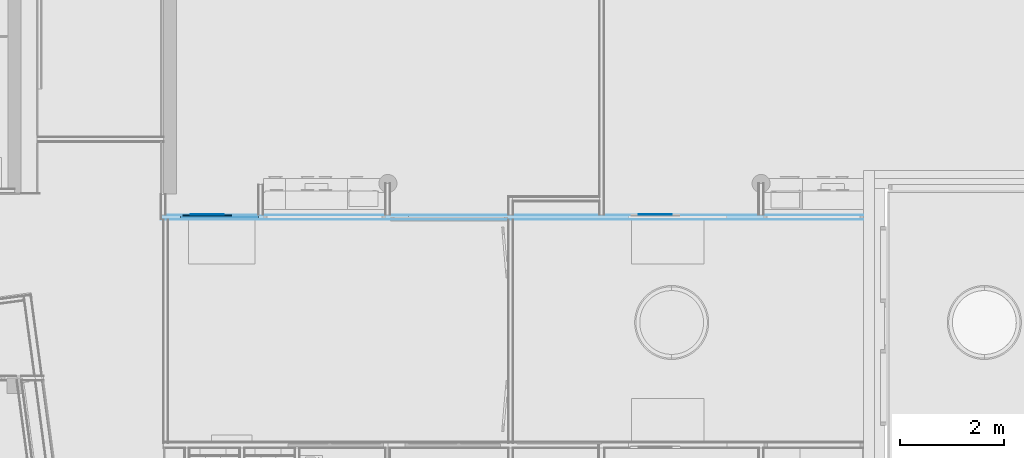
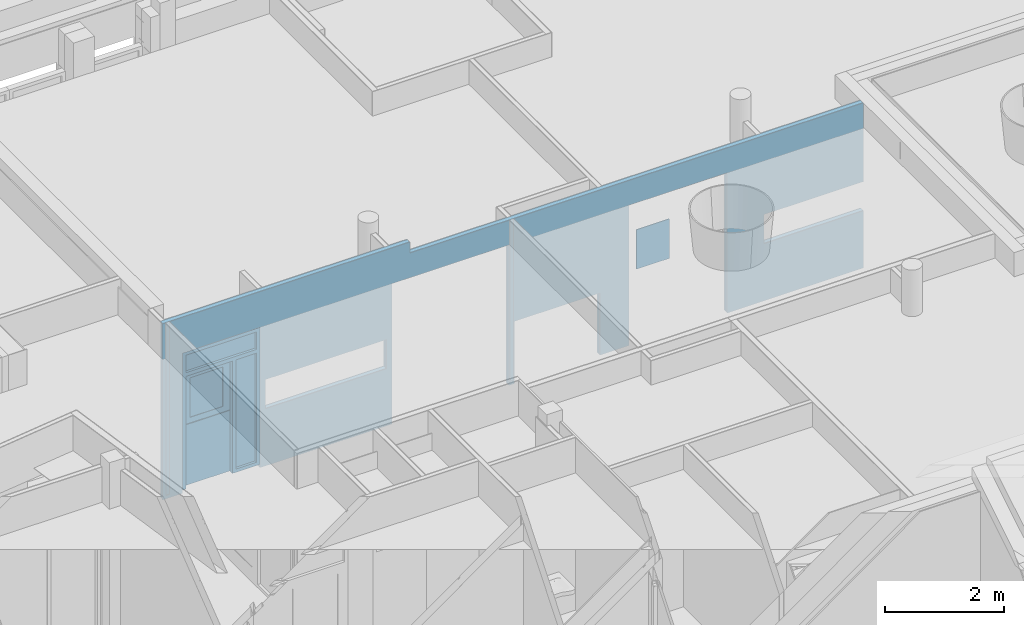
# One storey, part 76 of 167: 4 building element parts, 6 openings, 3 elements without a shape of their own, plus 3 elements that do not belong to this part.
"""IFC2X3 building model written with IfcOpenShell, lengths in millimetres."""

from ifc_helpers import new_model, entity, si_unit, converted_unit, derived_unit, money_unit, direction, frame, origin_with_axes, place, context, subcontext, project, spatial, open_shell, faceted_brep, surface_model, material, type_object, element, fill, aggregate, save


model = new_model("IFC2X3")

# Units and contexts
model_context = context("Model", 3, precision=0.01, world=origin_with_axes(), true_north=direction((0.0, 1.0)))
plan_context = context("Plan", 3, precision=0.01, world=origin_with_axes(), true_north=direction((0.0, 1.0)))
body_context = subcontext(model_context, "Body", "Model", "MODEL_VIEW")
ifc_project = project(units=[si_unit("LENGTHUNIT", "METRE", prefix="MILLI"), si_unit("AREAUNIT", "SQUARE_METRE"), si_unit("VOLUMEUNIT", "CUBIC_METRE"), converted_unit("PLANEANGLEUNIT", "DEGREE", entity("IfcPlaneAngleMeasure", 0.0174532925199), si_unit("PLANEANGLEUNIT", "RADIAN"), dimensions=[0, 0, 0, 0, 0, 0, 0]), si_unit("SOLIDANGLEUNIT", "STERADIAN"), money_unit("EUR"), converted_unit("TIMEUNIT", "Year", entity("IfcTimeMeasure", 31556926.0), si_unit("TIMEUNIT", "SECOND"), dimensions=[0, 0, 1, 0, 0, 0, 0]), si_unit("MASSUNIT", "GRAM", prefix="KILO"), si_unit("THERMODYNAMICTEMPERATUREUNIT", "DEGREE_CELSIUS"), si_unit("LUMINOUSINTENSITYUNIT", "LUMEN"), si_unit("ENERGYUNIT", "JOULE", prefix="MEGA"), derived_unit("THERMALCONDUCTANCEUNIT", [(si_unit("POWERUNIT", "WATT"), 1), (si_unit("LENGTHUNIT", "METRE"), -1), (si_unit("THERMODYNAMICTEMPERATUREUNIT", "KELVIN"), -1)]), derived_unit("SPECIFICHEATCAPACITYUNIT", [(si_unit("ENERGYUNIT", "JOULE"), 1), (si_unit("MASSUNIT", "GRAM", prefix="KILO"), -1), (si_unit("THERMODYNAMICTEMPERATUREUNIT", "KELVIN"), -1)]), derived_unit("MASSDENSITYUNIT", [(si_unit("MASSUNIT", "GRAM", prefix="KILO"), 1), (si_unit("VOLUMEUNIT", "CUBIC_METRE"), -1)])], contexts=[model_context, plan_context])

# Site, building, storey
site_placement = place(None, origin_with_axes())
site = spatial("IfcSite", under=ifc_project, at=site_placement, Name="Site", CompositionType="ELEMENT")
building_placement = place(site_placement, origin_with_axes())
building = spatial("IfcBuilding", under=site, at=building_placement, Name="Naam gebouw", CompositionType="ELEMENT")
storey_placement = place(building_placement, origin_with_axes())
storey = spatial("IfcBuildingStorey", under=building, at=storey_placement, Name="Begane grond", CompositionType="ELEMENT", Elevation=0.0)

# Wall, openings, building element parts, doors
wall_type = type_object("IfcWallType", Name="_TenW_22_Metalstud 100 enkel gipsvezelplaat 100", PredefinedType="NOTDEFINED")
wall_placement = place(storey_placement, frame((38189.0, 41700.0, -100.0), z_axis=(0.0, 0.0, 1.0), x_axis=(-1.0, 0.0, 0.0)))
wall = element("IfcWall", 1, at=wall_placement, inside=storey, type_object=wall_type, Name="22_Wand_Wand-x")
opening_1_placement = place(wall_placement, frame((1176.5, 0.0, 1200.0), z_axis=(0.0, 0.0, 1.0), x_axis=(1.0, 0.0, 0.0)))
element("IfcOpeningElement", 2, at=opening_1_placement, cuts=wall, Name="31_Raam_Hi-49", context=body_context, shape_type="Brep", body=[
    faceted_brep([(962.5, -100.0, 595.0), (962.5, -100.0, 0.0), (962.5, 200.0, 0.0), (962.5, 200.0, 595.0), (-962.5, -100.0, 595.0), (-962.5, -100.0, 0.0), (-962.5, 200.0, 0.0), (-962.5, 200.0, 595.0)], [[[0, 1, 2, 3]], [[0, 4, 5, 1]], [[1, 5, 6, 2]], [[3, 2, 6, 7]], [[4, 0, 3, 7]], [[5, 4, 7, 6]]]),
])
opening_2_placement = place(wall_placement, frame((10611.4999999, 0.0, 1200.0), z_axis=(0.0, 0.0, 1.0), x_axis=(1.0, 0.0, 0.0)))
element("IfcOpeningElement", 3, at=opening_2_placement, cuts=wall, Name="31_Raam_Hi-41", context=body_context, shape_type="Brep", body=[
    faceted_brep([(-1172.49999987, 200.0, 596.07308756), (-1172.49999987, 200.0, 0.0), (-1172.49999987, -100.0, 0.0), (-1172.49999987, -100.0, 596.07308756), (1172.49999987, 200.0, 596.07308756), (1172.49999987, 200.0, 0.0), (1172.49999987, -100.0, 0.0), (1172.49999987, -100.0, 596.07308756)], [[[0, 1, 2, 3]], [[0, 4, 5, 1]], [[1, 5, 6, 2]], [[3, 2, 6, 7]], [[4, 0, 3, 7]], [[5, 4, 7, 6]]]),
])
opening_3_placement = place(wall_placement, frame((8203.10155757, 0.0, 100.0), z_axis=(0.0, 0.0, 1.0), x_axis=(1.0, 0.0, 0.0)))
element("IfcOpeningElement", 4, at=opening_3_placement, cuts=wall, Name="31_Raam_Hi-35", context=body_context, shape_type="Brep", body=[
    faceted_brep([(-1135.89844243, 225.0, 2800.0), (-1135.89844243, 225.0, 0.0), (-1135.89844243, -100.0, 0.0), (-1135.89844243, -100.0, 2800.0), (1135.89844243, 225.0, 2800.0), (1135.89844243, 225.0, 0.0), (1135.89844243, -100.0, 0.0), (1135.89844243, -100.0, 2800.0)], [[[0, 1, 2, 3]], [[0, 4, 5, 1]], [[1, 5, 6, 2]], [[3, 2, 6, 7]], [[4, 0, 3, 7]], [[5, 4, 7, 6]]]),
])
opening_4_placement = place(wall_placement, frame((6140.46082434, 0.0, 30.0), z_axis=(0.0, 0.0, 1.0), x_axis=(1.0, 0.0, 0.0)))
element("IfcOpeningElement", 5, at=opening_4_placement, cuts=wall, Name="31_Raam_Merk-x", context=body_context, shape_type="Brep", body=[
    faceted_brep([(-826.742290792, -100.0, 0.0), (-826.742290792, -100.0, 1270.0), (-826.742290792, 200.0, 1270.0), (-826.742290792, 200.0, 0.0), (826.742290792, -100.0, 0.0), (826.742290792, -100.0, 1270.0), (826.742290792, 200.0, 1270.0), (826.742290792, 200.0, 0.0)], [[[0, 1, 2, 3]], [[0, 4, 5, 1]], [[1, 5, 6, 2]], [[3, 2, 6, 7]], [[4, 0, 3, 7]], [[5, 4, 7, 6]]]),
])
opening_5_placement = place(wall_placement, frame((3798.99993764, 0.0, 100.0), z_axis=(0.0, 0.0, 1.0), x_axis=(1.0, 0.0, 0.0)))
opening_5 = element("IfcOpeningElement", 6, at=opening_5_placement, cuts=wall, Name="32_Deur_Hi-43s", context=body_context, shape_type="Brep", body=[
    faceted_brep([(950.0, 200.0, 0.0), (950.0, 200.0, 2800.0), (950.0, -100.0, 2800.0), (950.0, -100.0, 0.0), (-950.0, 200.0, 0.0), (-950.0, 200.0, 2800.0), (-950.0, -100.0, 2800.0), (-950.0, -100.0, 0.0)], [[[0, 1, 2, 3]], [[0, 4, 5, 1]], [[1, 5, 6, 2]], [[3, 2, 6, 7]], [[4, 0, 3, 7]], [[5, 4, 7, 6]]]),
])
opening_6_placement = place(wall_placement, frame((12639.0, 0.0, 100.0), z_axis=(0.0, 0.0, 1.0), x_axis=(1.0, 0.0, 0.0)))
opening_6 = element("IfcOpeningElement", 7, at=opening_6_placement, cuts=wall, Name="32_Deur_Hi-16", context=body_context, shape_type="Brep", body=[
    faceted_brep([(750.0, 200.0, 0.0), (750.0, 200.0, 2800.0), (750.0, -100.0, 2800.0), (750.0, -100.0, 0.0), (-750.0, 200.0, 0.0), (-750.0, 200.0, 2800.0), (-750.0, -100.0, 2800.0), (-750.0, -100.0, 0.0)], [[[0, 1, 2, 3]], [[0, 4, 5, 1]], [[1, 5, 6, 2]], [[3, 2, 6, 7]], [[4, 0, 3, 7]], [[5, 4, 7, 6]]]),
])
ifc_material_1 = material(Name="Gipsplaat watervast")
building_element_part_1_placement = place(wall_placement, origin_with_axes())
building_element_part_1 = element("IfcBuildingElementPart", 8, at=building_element_part_1_placement, material=ifc_material_1, Name="Gipsplaat watervast", context=body_context, shape_type="Brep", body=[
    faceted_brep([(13389.0, 37.5, 2900.0), (13389.0, 37.5, 100.0), (13389.0, 37.5, 30.0), (13773.9999908, 37.5, 30.0), (13773.9999908, 37.5, 3629.99999752), (13711.4999908, 37.5, 3630.0), (13711.4999908, 37.5, 100.0), (13636.4999908, 37.5, 100.0), (13636.4999908, 37.5, 3630.0), (8989.0, 37.5, 3630.0), (8989.0, 37.5, 3405.0), (7054.70311513, 37.5, 3405.0), (7054.70311513, 37.5, 100.0), (6979.70311513, 37.5, 100.0), (6979.70311513, 37.5, 3405.0), (214.0, 37.5, 3405.0), (214.0, 37.5, 1795.0), (2139.0, 37.5, 1795.0), (2139.0, 37.5, 1200.0), (214.0, 37.5, 1200.0), (214.0, 37.5, 30.0), (2848.99993764, 37.5, 30.0), (2848.99993764, 37.5, 100.0), (2848.99993764, 37.5, 2900.0), (4748.99993764, 37.5, 2900.0), (4748.99993764, 37.5, 100.0), (4748.99993764, 37.5, 30.0), (5313.71853355, 37.5, 30.0), (5313.71853355, 37.5, 100.0), (5313.71853355, 37.5, 1300.0), (6967.20311513, 37.5, 1300.0), (6967.20311513, 37.5, 100.0), (6967.20311513, 37.5, 30.0), (7067.20311513, 37.5, 30.0), (7067.20311513, 37.5, 100.0), (7067.20311513, 37.5, 2900.0), (9339.0, 37.5, 2900.0), (9339.0, 37.5, 100.0), (9339.0, 37.5, 30.0), (11889.0, 37.5, 30.0), (11889.0, 37.5, 100.0), (11889.0, 37.5, 2900.0), (11783.9999997, 37.5, 1200.0), (9439.0, 37.5, 1200.0), (9439.0, 37.5, 1796.07308756), (11783.9999997, 37.5, 1796.07308756), (13389.0, 50.0, 2900.0), (13389.0, 50.0, 100.0), (13389.0, 50.0, 30.0), (13773.9999908, 50.0, 30.0), (13773.9999908, 50.0, 3629.99999752), (13711.4999908, 50.0, 3630.0), (13711.4999908, 50.0, 100.0), (13636.4999908, 50.0, 100.0), (13636.4999908, 50.0, 3630.0), (8989.0, 50.0, 3630.0), (8989.0, 50.0, 3405.0), (7054.70311513, 50.0, 3405.0), (7054.70311513, 50.0, 100.0), (6979.70311513, 50.0, 100.0), (6979.70311513, 50.0, 3405.0), (214.0, 50.0, 3405.0), (214.0, 50.0, 1795.0), (2139.0, 50.0, 1795.0), (2139.0, 50.0, 1200.0), (214.0, 50.0, 1200.0), (214.0, 50.0, 30.0), (2848.99993764, 50.0, 30.0), (2848.99993764, 50.0, 100.0), (2848.99993764, 50.0, 2900.0), (4748.99993764, 50.0, 2900.0), (4748.99993764, 50.0, 100.0), (4748.99993764, 50.0, 30.0), (5313.71853355, 50.0, 30.0), (5313.71853355, 50.0, 100.0), (5313.71853355, 50.0, 1300.0), (6967.20311513, 50.0, 1300.0), (6967.20311513, 50.0, 100.0), (6967.20311513, 50.0, 30.0), (7067.20311513, 50.0, 30.0), (7067.20311513, 50.0, 100.0), (7067.20311513, 50.0, 2900.0), (9339.0, 50.0, 2900.0), (9339.0, 50.0, 100.0), (9339.0, 50.0, 30.0), (11889.0, 50.0, 30.0), (11889.0, 50.0, 100.0), (11889.0, 50.0, 2900.0), (11783.9999997, 50.0, 1200.0), (9439.0, 50.0, 1200.0), (9439.0, 50.0, 1796.07308756), (11783.9999997, 50.0, 1796.07308756)], [[[0, 1, 2, 3, 4, 5, 6, 7, 8, 9, 10, 11, 12, 13, 14, 15, 16, 17, 18, 19, 20, 21, 22, 23, 24, 25, 26, 27, 28, 29, 30, 31, 32, 33, 34, 35, 36, 37, 38, 39, 40, 41], [42, 43, 44, 45]], [[1, 0, 46, 47]], [[1, 47, 48, 2]], [[49, 3, 2, 48]], [[50, 4, 3, 49]], [[5, 4, 50, 51]], [[5, 51, 52, 6]], [[6, 52, 53, 7]], [[8, 7, 53, 54]], [[8, 54, 55, 9]], [[9, 55, 56, 10]], [[10, 56, 57, 11]], [[58, 12, 11, 57]], [[12, 58, 59, 13]], [[13, 59, 60, 14]], [[14, 60, 61, 15]], [[16, 15, 61, 62]], [[16, 62, 63, 17]], [[17, 63, 64, 18]], [[19, 18, 64, 65]], [[65, 66, 20, 19]], [[20, 66, 67, 21]], [[22, 21, 67, 68]], [[22, 68, 69, 23]], [[23, 69, 70, 24]], [[24, 70, 71, 25]], [[71, 72, 26, 25]], [[26, 72, 73, 27]], [[27, 73, 74, 28]], [[74, 75, 29, 28]], [[75, 76, 30, 29]], [[76, 77, 31, 30]], [[78, 32, 31, 77]], [[32, 78, 79, 33]], [[79, 80, 34, 33]], [[81, 35, 34, 80]], [[82, 36, 35, 81]], [[83, 37, 36, 82]], [[38, 37, 83, 84]], [[38, 84, 85, 39]], [[86, 40, 39, 85]], [[41, 40, 86, 87]], [[0, 41, 87, 46]], [[43, 42, 88, 89]], [[44, 43, 89, 90]], [[45, 44, 90, 91]], [[42, 45, 91, 88]], [[87, 86, 85, 84, 83, 82, 81, 80, 79, 78, 77, 76, 75, 74, 73, 72, 71, 70, 69, 68, 67, 66, 65, 64, 63, 62, 61, 60, 59, 58, 57, 56, 55, 54, 53, 52, 51, 50, 49, 48, 47, 46], [88, 91, 90, 89]]]),
])
ifc_material_2 = material(Name="Isolatie - Steenwol zacht")
building_element_part_2_placement = place(wall_placement, origin_with_axes())
building_element_part_2 = element("IfcBuildingElementPart", 9, at=building_element_part_2_placement, material=ifc_material_2, Name="Isolatie - Steenwol zacht", context=body_context, shape_type="Brep", body=[
    faceted_brep([(13389.0, -37.5, 2900.0), (13389.0, -37.5, 100.0), (13389.0, -37.5, 30.0), (13761.4999908, -37.5, 30.0), (13761.4999908, -37.5, 3629.99999752), (8989.0, -37.5, 3629.99999752), (8989.0, -37.5, 3405.0), (214.0, -37.5, 3405.0), (214.0, -37.5, 1795.0), (2139.0, -37.5, 1795.0), (2139.0, -37.5, 1200.0), (214.0, -37.5, 1200.0), (214.0, -37.5, 30.0), (2848.99993764, -37.5, 30.0), (2848.99993764, -37.5, 100.0), (2848.99993764, -37.5, 2900.0), (4748.99993764, -37.5, 2900.0), (4748.99993764, -37.5, 100.0), (4748.99993764, -37.5, 30.0), (5313.71853355, -37.5, 30.0), (5313.71853355, -37.5, 100.0), (5313.71853355, -37.5, 1300.0), (6967.20311513, -37.5, 1300.0), (6967.20311513, -37.5, 100.0), (6967.20311513, -37.5, 30.0), (7067.20311513, -37.5, 30.0), (7067.20311513, -37.5, 100.0), (7067.20311513, -37.5, 2900.0), (9339.0, -37.5, 2900.0), (9339.0, -37.5, 100.0), (9339.0, -37.5, 30.0), (11889.0, -37.5, 30.0), (11889.0, -37.5, 100.0), (11889.0, -37.5, 2900.0), (11783.9999997, -37.5, 1200.0), (9439.0, -37.5, 1200.0), (9439.0, -37.5, 1796.07308756), (11783.9999997, -37.5, 1796.07308756), (13389.0, 37.5, 2900.0), (13389.0, 37.5, 100.0), (13389.0, 37.5, 30.0), (13761.4999908, 37.5, 30.0), (13761.4999908, 37.5, 3629.99999752), (8989.0, 37.5, 3629.99999752), (8989.0, 37.5, 3405.0), (214.0, 37.5, 3405.0), (214.0, 37.5, 1795.0), (2139.0, 37.5, 1795.0), (2139.0, 37.5, 1200.0), (214.0, 37.5, 1200.0), (214.0, 37.5, 30.0), (2848.99993764, 37.5, 30.0), (2848.99993764, 37.5, 100.0), (2848.99993764, 37.5, 2900.0), (4748.99993764, 37.5, 2900.0), (4748.99993764, 37.5, 100.0), (4748.99993764, 37.5, 30.0), (5313.71853355, 37.5, 30.0), (5313.71853355, 37.5, 100.0), (5313.71853355, 37.5, 1300.0), (6967.20311513, 37.5, 1300.0), (6967.20311513, 37.5, 100.0), (6967.20311513, 37.5, 30.0), (7067.20311513, 37.5, 30.0), (7067.20311513, 37.5, 100.0), (7067.20311513, 37.5, 2900.0), (9339.0, 37.5, 2900.0), (9339.0, 37.5, 100.0), (9339.0, 37.5, 30.0), (11889.0, 37.5, 30.0), (11889.0, 37.5, 100.0), (11889.0, 37.5, 2900.0), (11783.9999997, 37.5, 1200.0), (9439.0, 37.5, 1200.0), (9439.0, 37.5, 1796.07308756), (11783.9999997, 37.5, 1796.07308756)], [[[0, 1, 2, 3, 4, 5, 6, 7, 8, 9, 10, 11, 12, 13, 14, 15, 16, 17, 18, 19, 20, 21, 22, 23, 24, 25, 26, 27, 28, 29, 30, 31, 32, 33], [34, 35, 36, 37]], [[1, 0, 38, 39]], [[1, 39, 40, 2]], [[41, 3, 2, 40]], [[42, 4, 3, 41]], [[4, 42, 43, 5]], [[5, 43, 44, 6]], [[6, 44, 45, 7]], [[8, 7, 45, 46]], [[8, 46, 47, 9]], [[9, 47, 48, 10]], [[11, 10, 48, 49]], [[49, 50, 12, 11]], [[12, 50, 51, 13]], [[14, 13, 51, 52]], [[14, 52, 53, 15]], [[15, 53, 54, 16]], [[16, 54, 55, 17]], [[55, 56, 18, 17]], [[18, 56, 57, 19]], [[19, 57, 58, 20]], [[58, 59, 21, 20]], [[59, 60, 22, 21]], [[60, 61, 23, 22]], [[62, 24, 23, 61]], [[24, 62, 63, 25]], [[63, 64, 26, 25]], [[65, 27, 26, 64]], [[66, 28, 27, 65]], [[67, 29, 28, 66]], [[30, 29, 67, 68]], [[30, 68, 69, 31]], [[70, 32, 31, 69]], [[33, 32, 70, 71]], [[0, 33, 71, 38]], [[35, 34, 72, 73]], [[36, 35, 73, 74]], [[37, 36, 74, 75]], [[34, 37, 75, 72]], [[71, 70, 69, 68, 67, 66, 65, 64, 63, 62, 61, 60, 59, 58, 57, 56, 55, 54, 53, 52, 51, 50, 49, 48, 47, 46, 45, 44, 43, 42, 41, 40, 39, 38], [72, 75, 74, 73]]]),
])
building_element_part_3_placement = place(wall_placement, origin_with_axes())
building_element_part_3 = element("IfcBuildingElementPart", 10, at=building_element_part_3_placement, material=ifc_material_1, Name="Gipsplaat watervast", context=body_context, shape_type="Brep", body=[
    faceted_brep([(9339.0, -50.0, 2900.0), (9339.0, -50.0, 100.0), (9339.0, -50.0, 30.0), (9351.5, -50.0, 30.0), (9351.5, -50.0, 3629.99999752), (8989.0, -50.0, 3629.9999979), (8989.0, -50.0, 3405.0), (7054.70311513, -50.0, 3405.0), (7054.70311513, -50.0, 30.0), (7067.20311513, -50.0, 30.0), (7067.20311513, -50.0, 100.0), (7067.20311513, -50.0, 2900.0), (9339.0, -37.5, 2900.0), (9339.0, -37.5, 100.0), (9339.0, -37.5, 30.0), (9351.5, -37.5, 30.0), (9351.5, -37.5, 3629.99999752), (8989.0, -37.5, 3629.99999791), (8989.0, -37.5, 3405.0), (7054.70311513, -37.5, 3405.0), (7054.70311513, -37.5, 30.0), (7067.20311513, -37.5, 30.0), (7067.20311513, -37.5, 100.0), (7067.20311513, -37.5, 2900.0)], [[[0, 1, 2, 3, 4, 5, 6, 7, 8, 9, 10, 11]], [[1, 0, 12, 13]], [[1, 13, 14, 2]], [[14, 15, 3, 2]], [[15, 16, 4, 3]], [[5, 4, 16, 17]], [[6, 5, 17, 18]], [[7, 6, 18, 19]], [[19, 20, 8, 7]], [[9, 8, 20, 21]], [[22, 10, 9, 21]], [[11, 10, 22, 23]], [[0, 11, 23, 12]], [[23, 22, 21, 20, 19, 18, 17, 16, 15, 14, 13, 12]]]),
    faceted_brep([(6967.20311513, -50.0, 1300.0), (6967.20311513, -50.0, 100.0), (6967.20311513, -50.0, 30.0), (6979.70311513, -50.0, 30.0), (6979.70311513, -50.0, 3405.0), (5301.21853355, -50.0, 3405.0), (5301.21853355, -50.0, 30.0), (5313.71853355, -50.0, 30.0), (5313.71853355, -50.0, 100.0), (5313.71853355, -50.0, 1300.0), (6967.20311513, -37.5, 1300.0), (6967.20311513, -37.5, 100.0), (6967.20311513, -37.5, 30.0), (6979.70311513, -37.5, 30.0), (6979.70311513, -37.5, 3405.0), (5301.21853355, -37.5, 3405.0), (5301.21853355, -37.5, 30.0), (5313.71853355, -37.5, 30.0), (5313.71853355, -37.5, 100.0), (5313.71853355, -37.5, 1300.0)], [[[0, 1, 2, 3, 4, 5, 6, 7, 8, 9]], [[1, 0, 10, 11]], [[1, 11, 12, 2]], [[12, 13, 3, 2]], [[4, 3, 13, 14]], [[5, 4, 14, 15]], [[15, 16, 6, 5]], [[7, 6, 16, 17]], [[18, 8, 7, 17]], [[9, 8, 18, 19]], [[0, 9, 19, 10]], [[19, 18, 17, 16, 15, 14, 13, 12, 11, 10]]]),
    faceted_brep([(13389.0, -50.0, 2900.0), (13389.0, -50.0, 100.0), (13389.0, -50.0, 30.0), (13686.4999908, -50.0, 30.0), (13686.4999908, -50.0, 3629.99999752), (9426.5, -50.0, 3629.99999752), (9426.5, -50.0, 30.0), (11889.0, -50.0, 30.0), (11889.0, -50.0, 100.0), (11889.0, -50.0, 2900.0), (9439.0, -50.0, 1200.0), (9439.0, -50.0, 1796.07308756), (11783.9999997, -50.0, 1796.07308756), (11783.9999997, -50.0, 1200.0), (13389.0, -37.5, 2900.0), (13389.0, -37.5, 100.0), (13389.0, -37.5, 30.0), (13686.4999908, -37.5, 30.0), (13686.4999908, -37.5, 3629.99999752), (9426.5, -37.5, 3629.99999752), (9426.5, -37.5, 30.0), (11889.0, -37.5, 30.0), (11889.0, -37.5, 100.0), (11889.0, -37.5, 2900.0), (9439.0, -37.5, 1200.0), (9439.0, -37.5, 1796.07308756), (11783.9999997, -37.5, 1796.07308756), (11783.9999997, -37.5, 1200.0)], [[[0, 1, 2, 3, 4, 5, 6, 7, 8, 9], [10, 11, 12, 13]], [[1, 0, 14, 15]], [[1, 15, 16, 2]], [[17, 3, 2, 16]], [[18, 4, 3, 17]], [[19, 5, 4, 18]], [[5, 19, 20, 6]], [[6, 20, 21, 7]], [[22, 8, 7, 21]], [[9, 8, 22, 23]], [[0, 9, 23, 14]], [[10, 24, 25, 11]], [[11, 25, 26, 12]], [[12, 26, 27, 13]], [[13, 27, 24, 10]], [[23, 22, 21, 20, 19, 18, 17, 16, 15, 14], [26, 25, 24, 27]]]),
    faceted_brep([(214.0, -37.5, 1795.0), (214.0, -50.0, 1795.0), (214.0, -50.0, 3405.0), (214.0, -37.5, 3405.0), (2139.0, -50.0, 1795.0), (2139.0, -37.5, 1795.0), (2139.0, -50.0, 1200.0), (214.0, -50.0, 1200.0), (214.0, -50.0, 30.0), (2151.5, -50.0, 30.0), (2151.5, -50.0, 3405.0), (2151.5, -37.5, 3405.0), (2151.5, -37.5, 30.0), (214.0, -37.5, 30.0), (214.0, -37.5, 1200.0), (2139.0, -37.5, 1200.0)], [[[0, 1, 2, 3]], [[4, 1, 0, 5]], [[6, 7, 8, 9, 10, 2, 1, 4]], [[2, 10, 11, 3]], [[5, 0, 3, 11, 12, 13, 14, 15]], [[6, 4, 5, 15]], [[14, 7, 6, 15]], [[7, 14, 13, 8]], [[8, 13, 12, 9]], [[10, 9, 12, 11]]]),
    faceted_brep([(4748.99993764, -50.0, 2900.0), (4748.99993764, -50.0, 100.0), (4748.99993764, -50.0, 30.0), (5226.21853355, -50.0, 30.0), (5226.21853355, -50.0, 3405.0), (2226.5, -50.0, 3405.0), (2226.5, -50.0, 30.0), (2848.99993764, -50.0, 30.0), (2848.99993764, -50.0, 100.0), (2848.99993764, -50.0, 2900.0), (4748.99993764, -37.5, 2900.0), (4748.99993764, -37.5, 100.0), (4748.99993764, -37.5, 30.0), (5226.21853355, -37.5, 30.0), (5226.21853355, -37.5, 3405.0), (2226.5, -37.5, 3405.0), (2226.5, -37.5, 30.0), (2848.99993764, -37.5, 30.0), (2848.99993764, -37.5, 100.0), (2848.99993764, -37.5, 2900.0)], [[[0, 1, 2, 3, 4, 5, 6, 7, 8, 9]], [[1, 0, 10, 11]], [[1, 11, 12, 2]], [[12, 13, 3, 2]], [[4, 3, 13, 14]], [[5, 4, 14, 15]], [[15, 16, 6, 5]], [[7, 6, 16, 17]], [[18, 8, 7, 17]], [[9, 8, 18, 19]], [[0, 9, 19, 10]], [[19, 18, 17, 16, 15, 14, 13, 12, 11, 10]]]),
])
aggregate(wall, [building_element_part_1, building_element_part_2, building_element_part_3])
door_style = type_object("IfcDoorStyle", Name="D1 bl zl1-b 24", ConstructionType="NOTDEFINED", OperationType="SINGLE_SWING_LEFT", ParameterTakesPrecedence=False, Sizeable=False)
door_1_placement = place(opening_5_placement, frame((950.0, 0.0, 0.0), z_axis=(0.0, 0.0, 1.0), x_axis=(-1.0, 0.0, 0.0)))
door_1 = element("IfcDoor", 11, at=door_1_placement, inside=storey, type_object=door_style, Name="32_Deur_Hi-43s", ObjectType="DOOR", OverallHeight=2800.0, OverallWidth=1900.0)
fill(opening_5, door_1)
ifc_material_3 = material(Name="Glas")
building_element_part_4_placement = place(door_1_placement, origin_with_axes())
building_element_part_4 = element("IfcBuildingElementPart", 12, at=building_element_part_4_placement, material=ifc_material_3, Name="Glas", context=body_context, shape_type="Brep", body=[
    faceted_brep([(200.333333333, 57.3333333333, 1364.67391304), (833.666666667, 57.3333333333, 1364.67391304), (833.666666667, 44.0, 1364.67391304), (200.333333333, 44.0, 1364.67391304), (200.333333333, 57.3333333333, 2173.36956522), (833.666666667, 57.3333333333, 2173.36956522), (833.666666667, 44.0, 2173.36956522), (200.333333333, 44.0, 2173.36956522)], [[[0, 1, 2, 3]], [[0, 4, 5, 1]], [[1, 5, 6, 2]], [[3, 2, 6, 7]], [[4, 0, 3, 7]], [[5, 4, 7, 6]]]),
])
aggregate(door_1, [building_element_part_4])
door_2_placement = place(opening_6_placement, frame((750.0, 0.0, 0.0), z_axis=(0.0, 0.0, 1.0), x_axis=(-1.0, 0.0, 0.0)))
door_2 = element("IfcDoor", 13, at=door_2_placement, inside=storey, type_object=door_style, Name="32_Deur_Hi-16", ObjectType="DOOR", OverallHeight=2800.0, OverallWidth=1500.0)
fill(opening_6, door_2)
building_element_part_5_placement = place(door_2_placement, origin_with_axes())
building_element_part_5 = element("IfcBuildingElementPart", 14, at=building_element_part_5_placement, context=body_context, shape_type="SurfaceModel", body=[
    faceted_brep([(1500.0, 64.0, 0.0), (1500.0, -50.0, 0.0), (1433.0, -50.0, 0.0), (1433.0, 64.0, 0.0), (1500.0, 64.0, 2733.0), (1500.0, -50.0, 2733.0), (1433.0, -50.0, 2733.0), (1433.0, -50.0, 2375.0), (1433.0, -50.0, 2300.0), (1433.0, -50.0, 67.0), (1433.0, 64.0, 67.0), (1433.0, 64.0, 2300.0), (1433.0, 64.0, 2375.0), (1433.0, 64.0, 2733.0)], [[[0, 1, 2, 3]], [[4, 5, 1, 0]], [[1, 5, 6, 7, 8, 9, 2]], [[3, 2, 9, 10]], [[0, 3, 10, 11, 12, 13, 4]], [[13, 6, 5, 4]], [[12, 7, 6, 13]], [[11, 8, 7, 12]], [[10, 9, 8, 11]]]),
    faceted_brep([(967.0, 24.0, 0.0), (967.0, -50.0, 0.0), (967.0, -50.0, 2300.0), (967.0, 24.0, 2300.0), (992.0, 24.0, 0.0), (992.0, 64.0, 0.0), (1034.0, 64.0, 0.0), (1034.0, -50.0, 0.0), (1034.0, -50.0, 67.0), (1034.0, -50.0, 2300.0), (992.0, 24.0, 2300.0), (1034.0, 64.0, 2300.0), (992.0, 64.0, 2300.0), (1034.0, 64.0, 67.0)], [[[0, 1, 2, 3]], [[4, 5, 6, 7, 1, 0]], [[7, 8, 9, 2, 1]], [[10, 3, 2, 9, 11, 12]], [[10, 4, 0, 3]], [[12, 5, 4, 10]], [[12, 11, 13, 6, 5]], [[6, 13, 8, 7]], [[13, 11, 9, 8]]]),
    faceted_brep([(1433.0, 64.0, 67.0), (1433.0, -50.0, 67.0), (1433.0, -50.0, 0.0), (1433.0, 64.0, 0.0), (1034.0, 64.0, 67.0), (1034.0, -50.0, 67.0), (1034.0, -50.0, 0.0), (1034.0, 64.0, 0.0)], [[[0, 1, 2, 3]], [[4, 5, 1, 0]], [[1, 5, 6, 2]], [[3, 2, 6, 7]], [[0, 3, 7, 4]], [[7, 6, 5, 4]]]),
    faceted_brep([(42.0, 64.0, 2325.0), (42.0, 64.0, 0.0), (0.0, 64.0, 0.0), (0.0, 64.0, 2733.0), (67.0, 64.0, 2733.0), (67.0, 64.0, 2375.0), (67.0, 64.0, 2325.0), (42.0, 24.0, 2325.0), (42.0, 24.0, 0.0), (67.0, 24.0, 0.0), (67.0, -50.0, 0.0), (0.0, -50.0, 0.0), (0.0, -50.0, 2733.0), (67.0, -50.0, 2733.0), (67.0, -50.0, 2375.0), (67.0, 24.0, 2325.0), (67.0, -50.0, 2300.0)], [[[0, 1, 2, 3, 4, 5, 6]], [[0, 7, 8, 1]], [[8, 9, 10, 11, 2, 1]], [[3, 2, 11, 12]], [[4, 3, 12, 13]], [[5, 4, 13, 14]], [[15, 6, 5, 14, 16, 10, 9]], [[6, 15, 7, 0]], [[8, 7, 15, 9]], [[14, 13, 12, 11, 10, 16]]]),
    faceted_brep([(1500.0, 64.0, 2800.0), (1500.0, -50.0, 2800.0), (1500.0, -50.0, 2733.0), (1500.0, 64.0, 2733.0), (0.0, 64.0, 2800.0), (0.0, -50.0, 2800.0), (0.0, -50.0, 2733.0), (67.0, -50.0, 2733.0), (1433.0, -50.0, 2733.0), (1433.0, 64.0, 2733.0), (67.0, 64.0, 2733.0), (0.0, 64.0, 2733.0)], [[[0, 1, 2, 3]], [[4, 5, 1, 0]], [[1, 5, 6, 7, 8, 2]], [[3, 2, 8, 9]], [[0, 3, 9, 10, 11, 4]], [[11, 6, 5, 4]], [[10, 7, 6, 11]], [[9, 8, 7, 10]]]),
    faceted_brep([(67.0, 24.0, 2325.0), (67.0, 24.0, 2300.0), (67.0, -50.0, 2300.0), (67.0, -50.0, 2375.0), (67.0, 64.0, 2375.0), (67.0, 64.0, 2325.0), (992.0, 24.0, 2325.0), (992.0, 24.0, 2300.0), (967.0, 24.0, 2300.0), (967.0, -50.0, 2300.0), (1034.0, -50.0, 2300.0), (1433.0, -50.0, 2300.0), (1433.0, -50.0, 2375.0), (1433.0, 64.0, 2375.0), (992.0, 64.0, 2325.0), (1433.0, 64.0, 2300.0), (1034.0, 64.0, 2300.0), (992.0, 64.0, 2300.0)], [[[0, 1, 2, 3, 4, 5]], [[0, 6, 7, 8, 1]], [[8, 9, 2, 1]], [[9, 10, 11, 12, 3, 2]], [[13, 4, 3, 12]], [[14, 5, 4, 13, 15, 16, 17]], [[5, 14, 6, 0]], [[17, 7, 6, 14]], [[7, 17, 16, 10, 9, 8]], [[16, 15, 11, 10]], [[15, 13, 12, 11]]]),
    surface_model("IfcShellBasedSurfaceModel", [(1433.0, 10.0, 2375.0), (67.0, 10.0, 2375.0), (67.0, 10.0, 2733.0), (1433.0, 10.0, 2733.0)], [open_shell([[[0, 1, 2, 3]]])]),
    surface_model("IfcShellBasedSurfaceModel", [(1433.0, -2.0, 2375.0), (1433.0, -2.0, 2733.0), (67.0, -2.0, 2733.0), (67.0, -2.0, 2375.0)], [open_shell([[[0, 1, 2, 3]]])]),
    surface_model("IfcShellBasedSurfaceModel", [(1433.0, 10.0, 67.0), (1034.0, 10.0, 67.0), (1034.0, 10.0, 2300.0), (1433.0, 10.0, 2300.0)], [open_shell([[[0, 1, 2, 3]]])]),
    surface_model("IfcShellBasedSurfaceModel", [(1433.0, -2.0, 67.0), (1433.0, -2.0, 2300.0), (1034.0, -2.0, 2300.0), (1034.0, -2.0, 67.0)], [open_shell([[[0, 1, 2, 3]]])]),
])
ifc_material_4 = material(Name="_TenW_24_Hout - Multiplex")
building_element_part_6_placement = place(door_2_placement, origin_with_axes())
building_element_part_6 = element("IfcBuildingElementPart", 15, at=building_element_part_6_placement, material=ifc_material_4, Name="_TenW_24_Hout - Multiplex", context=body_context, shape_type="Brep", body=[
    faceted_brep([(42.0, 64.0, 1218.09782609), (992.0, 64.0, 1218.09782609), (992.0, 37.3333333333, 1218.09782609), (42.0, 37.3333333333, 1218.09782609), (42.0, 64.0, 2325.0), (992.0, 64.0, 2325.0), (200.333333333, 64.0, 1364.67391304), (833.666666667, 64.0, 1364.67391304), (833.666666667, 64.0, 2173.36956522), (200.333333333, 64.0, 2173.36956522), (992.0, 37.3333333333, 2325.0), (42.0, 37.3333333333, 2325.0), (200.333333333, 37.3333333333, 1364.67391304), (200.333333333, 37.3333333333, 2173.36956522), (833.666666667, 37.3333333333, 2173.36956522), (833.666666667, 37.3333333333, 1364.67391304)], [[[0, 1, 2, 3]], [[0, 4, 5, 1], [6, 7, 8, 9]], [[1, 5, 10, 2]], [[3, 2, 10, 11], [12, 13, 14, 15]], [[4, 0, 3, 11]], [[5, 4, 11, 10]], [[7, 6, 12, 15]], [[8, 7, 15, 14]], [[9, 8, 14, 13]], [[6, 9, 13, 12]]]),
    faceted_brep([(42.0, 64.0, 0.0), (992.0, 64.0, 0.0), (992.0, 37.3333333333, 0.0), (42.0, 37.3333333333, 0.0), (42.0, 64.0, 1213.04347826), (992.0, 64.0, 1213.04347826), (992.0, 37.3333333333, 1213.04347826), (42.0, 37.3333333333, 1213.04347826)], [[[0, 1, 2, 3]], [[0, 4, 5, 1]], [[1, 5, 6, 2]], [[3, 2, 6, 7]], [[4, 0, 3, 7]], [[5, 4, 7, 6]]]),
    faceted_brep([(42.0, 37.3333333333, 1200.20126027), (992.0, 37.3333333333, 1200.20126027), (992.0, 24.0, 1200.20126027), (42.0, 24.0, 1200.20126027), (42.0, 37.3333333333, 1250.74473853), (992.0, 37.3333333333, 1250.74473853), (992.0, 24.0, 1250.74473853), (42.0, 24.0, 1250.74473853)], [[[0, 1, 2, 3]], [[0, 4, 5, 1]], [[1, 5, 6, 2]], [[3, 2, 6, 7]], [[4, 0, 3, 7]], [[5, 4, 7, 6]]]),
])
building_element_part_7_placement = place(door_2_placement, origin_with_axes())
building_element_part_7 = element("IfcBuildingElementPart", 16, at=building_element_part_7_placement, material=ifc_material_3, Name="Glas", context=body_context, shape_type="Brep", body=[
    faceted_brep([(200.333333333, 57.3333333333, 1364.67391304), (833.666666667, 57.3333333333, 1364.67391304), (833.666666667, 44.0, 1364.67391304), (200.333333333, 44.0, 1364.67391304), (200.333333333, 57.3333333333, 2173.36956522), (833.666666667, 57.3333333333, 2173.36956522), (833.666666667, 44.0, 2173.36956522), (200.333333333, 44.0, 2173.36956522)], [[[0, 1, 2, 3]], [[0, 4, 5, 1]], [[1, 5, 6, 2]], [[3, 2, 6, 7]], [[4, 0, 3, 7]], [[5, 4, 7, 6]]]),
])
aggregate(door_2, [building_element_part_5, building_element_part_6, building_element_part_7])

save(model, "model.ifc")
